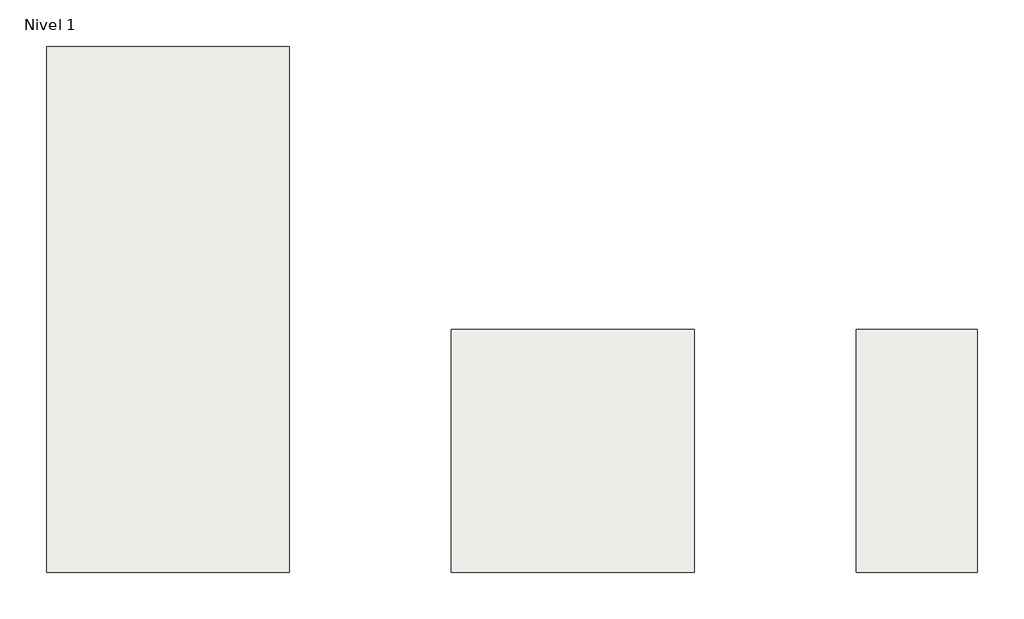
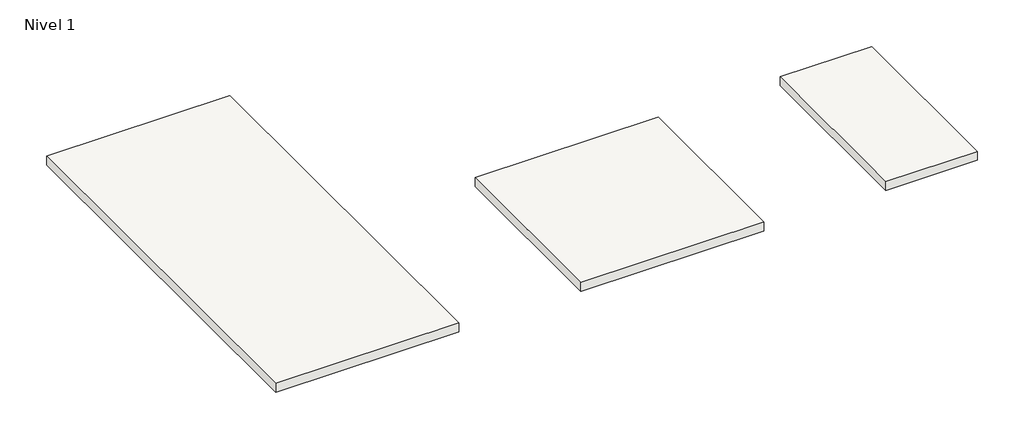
# One storey: 3 slabs.
"""IFC4 building model written with IfcOpenShell, lengths in millimetres."""

import ifcopenshell
import ifcopenshell.guid

model = None  # the IFC model being written
_history = None  # IfcOwnerHistory: only IFC2X3 demands one
_inside = {}  # id of a spatial element -> (the spatial element, [elements in it])
_under = {}  # id of a project, library or spatial element -> (it, [spatial elements below it])
_declared = {}  # id of a project -> (the project, [libraries it declares])
_typed = {}  # id of a type object -> (the type object, [elements of that type])
_made_of = {}  # id of a material, layer set ... -> (it, [elements and type objects made of it])


def new_model(schema):
    """Start an empty IFC model of exactly this schema.

    Asked for "IFC4X3", IfcOpenShell would pick the latest addendum, in which some entities
    have other attributes; the version numbers below select the first issue.
    IFC2X3 requires an IfcOwnerHistory on every rooted entity: one is made here for all.
    """
    global model, _history
    if schema == "IFC4X3":
        model = ifcopenshell.file(schema_version=(4, 3, 0, 0))
    else:
        model = ifcopenshell.file(schema=schema)
    _inside.clear()
    _under.clear()
    _declared.clear()
    _typed.clear()
    _made_of.clear()
    _history = None
    if model.schema == "IFC2X3":
        org = make("IfcOrganization", Name="unknown")
        user = make(
            "IfcPersonAndOrganization",
            ThePerson=make("IfcPerson", FamilyName="unknown"),
            TheOrganization=org,
        )
        app = make(
            "IfcApplication",
            ApplicationDeveloper=org,
            Version="unknown",
            ApplicationFullName="unknown",
            ApplicationIdentifier="unknown",
        )
        _history = make(
            "IfcOwnerHistory",
            OwningUser=user,
            OwningApplication=app,
            ChangeAction="ADDED",
            CreationDate=0,
        )
    return model


def make(cls, **values):
    """One entity of the class cls with the attributes given. An attribute that is None is left unset."""
    return model.create_entity(
        cls, **{name: value for name, value in values.items() if value is not None}
    )


def rooted(cls, **values):
    """An entity with a GlobalId (a new one), such as an element, a storey or a relation."""
    return make(cls, GlobalId=ifcopenshell.guid.new(), OwnerHistory=_history, **values)


def si_unit(unit_type, name, prefix=None):
    """IfcSIUnit, for example si_unit("LENGTHUNIT", "METRE", prefix="MILLI")."""
    return make("IfcSIUnit", UnitType=unit_type, Prefix=prefix, Name=name)


def assignment(units):
    """IfcUnitAssignment: the units of a project."""
    return None if units is None else make("IfcUnitAssignment", Units=units)


def point(xyz):
    """IfcCartesianPoint."""
    return None if xyz is None else make("IfcCartesianPoint", Coordinates=xyz)


def direction(xyz):
    """IfcDirection."""
    return None if xyz is None else make("IfcDirection", DirectionRatios=xyz)


def frame(location, z_axis=None, x_axis=None):
    """IfcAxis2Placement3D, a coordinate frame: its origin and axes. An axis left out is left unset."""
    return make(
        "IfcAxis2Placement3D",
        Location=point(location),
        Axis=direction(z_axis),
        RefDirection=direction(x_axis),
    )


def origin():
    """The frame at (0, 0, 0) with its axes left unset."""
    return frame((0.0, 0.0, 0.0))


def place(relative_to, where):
    """IfcLocalPlacement: puts the frame where relative to a parent placement (None: the world)."""
    return make(
        "IfcLocalPlacement", PlacementRelTo=relative_to, RelativePlacement=where
    )


def context(
    kind, dimensions, precision=None, world=None, true_north=None, identifier=None
):
    """IfcGeometricRepresentationContext, for example the 3D "Model" context."""
    return make(
        "IfcGeometricRepresentationContext",
        ContextIdentifier=identifier,
        ContextType=kind,
        CoordinateSpaceDimension=dimensions,
        Precision=precision,
        WorldCoordinateSystem=world,
        TrueNorth=true_north,
    )


def project(units=None, contexts=None):
    """IfcProject with its units and contexts."""
    return rooted(
        "IfcProject",
        Name="project",
        RepresentationContexts=contexts,
        UnitsInContext=assignment(units),
    )


def spatial(cls, under=None, at=None, **own):
    """A site, building, storey or space (cls), placed at a placement, below another one or the project."""
    s = rooted(cls, ObjectPlacement=at, **own)
    if under is not None:
        _under.setdefault(under.id(), (under, []))[1].append(s)
    return s


def polyline(points):
    """IfcPolyline through the points."""
    return make("IfcPolyline", Points=[point(p) for p in points])


def outline(outer, holes=None, kind="AREA"):
    """IfcArbitraryClosedProfileDef: a profile drawn as a closed curve; with holes, ...WithVoids."""
    if holes is None:
        return make("IfcArbitraryClosedProfileDef", ProfileType=kind, OuterCurve=outer)
    return make(
        "IfcArbitraryProfileDefWithVoids",
        ProfileType=kind,
        OuterCurve=outer,
        InnerCurves=holes,
    )


def extrude(swept, where, along, depth):
    """IfcExtrudedAreaSolid: the profile swept, set in the frame where, extruded along a direction by depth."""
    return make(
        "IfcExtrudedAreaSolid",
        SweptArea=swept,
        Position=where,
        ExtrudedDirection=direction(along),
        Depth=depth,
    )


def shape(context_of_items, identifier, shape_type, items):
    """IfcShapeRepresentation: the items that make up one representation, for example the "Body"."""
    return make(
        "IfcShapeRepresentation",
        ContextOfItems=context_of_items,
        RepresentationIdentifier=identifier,
        RepresentationType=shape_type,
        Items=items,
    )


def made_of(thing, what):
    """Note that an element or type object is made of a material, layer set ...; save() writes the relation."""
    if what is not None:
        _made_of.setdefault(what.id(), (what, []))[1].append(thing)
    return thing


def element(
    cls,
    number,
    at=None,
    inside=None,
    cuts=None,
    type_object=None,
    material=None,
    context=None,
    identifier="Body",
    shape_type=None,
    held_by="IfcProductDefinitionShape",
    body=None,
    shapes=None,
    **own,
):
    """One element of the class cls, such as IfcWall. Its Tag is "e" and its number.

    at: its placement. inside: the storey or other place that contains it. cuts: it is an
    opening in that element (IfcRelVoidsElement). A single representation is given by context,
    identifier, shape_type and body (its items); several are given by shapes. held_by: the class
    of the entity that holds the representations. save() writes the other relations.
    """
    e = rooted(cls, Tag="e%d" % number, ObjectPlacement=at, **own)
    if body is not None:
        shapes = [shape(context, identifier, shape_type, body)]
    if shapes is not None:
        e.Representation = make(held_by, Representations=shapes)
    if inside is not None:
        _inside.setdefault(inside.id(), (inside, []))[1].append(e)
    if cuts is not None:
        rooted(
            "IfcRelVoidsElement", RelatingBuildingElement=cuts, RelatedOpeningElement=e
        )
    if type_object is not None:
        _typed.setdefault(type_object.id(), (type_object, []))[1].append(e)
    return made_of(e, material)


def aggregate(whole, parts):
    """IfcRelAggregates: a whole, such as a stair, and the parts it consists of."""
    return rooted("IfcRelAggregates", RelatingObject=whole, RelatedObjects=parts)


def save(model, path):
    """Write the relations noted so far, then the file.

    IfcRelAggregates (storeys below a building ...), IfcRelContainedInSpatialStructure (elements
    in a storey), IfcRelDefinesByType, IfcRelAssociatesMaterial and IfcRelDeclares: one each for
    every whole, place, type object, material and project.
    """
    for whole, parts in _under.values():
        aggregate(whole, parts)
    for where, things in _inside.values():
        rooted(
            "IfcRelContainedInSpatialStructure",
            RelatedElements=things,
            RelatingStructure=where,
        )
    for kind, things in _typed.values():
        rooted("IfcRelDefinesByType", RelatedObjects=things, RelatingType=kind)
    for what, things in _made_of.values():
        rooted("IfcRelAssociatesMaterial", RelatedObjects=things, RelatingMaterial=what)
    for by, libraries in _declared.values():
        rooted("IfcRelDeclares", RelatingContext=by, RelatedDefinitions=libraries)
    model.write(path)


model = new_model("IFC4")

# Units and contexts
model_context = context("Model", 3, world=origin())
ifc_project = project(units=[si_unit("LENGTHUNIT", "METRE", prefix="MILLI")], contexts=[model_context])

# Site, building, storey
site = spatial("IfcSite", under=ifc_project)
building = spatial("IfcBuilding", under=site)
storey = spatial("IfcBuildingStorey", under=building, Name="Nivel 1", Elevation=0.0)

# Slabs
placement = place(None, origin())
element("IfcSlab", 1, ObjectType="Ankara Bronce 120X260 5,6", at=placement, inside=storey, context=model_context, shape_type="SweptSolid", body=[
    extrude(outline(polyline([(0.0, 2600.0), (1200.0, 2600.0), (1200.0, 0.0), (0.0, 0.0), (0.0, 2600.0)])), frame((0.0, 0.0, -60.6), z_axis=(0.0, 0.0, 1.0), x_axis=(1.0, 0.0, 0.0)), (0.0, 0.0, 1.0), 60.6),
])
element("IfcSlab", 2, ObjectType="Ankara Bronce 120X120 5,6", at=placement, inside=storey, context=model_context, shape_type="SweptSolid", body=[
    extrude(outline(polyline([(2000.0, 1200.0), (3200.0, 1200.0), (3200.0, 0.0), (2000.0, 0.0), (2000.0, 1200.0)])), frame((0.0, 0.0, -60.6), z_axis=(0.0, 0.0, 1.0), x_axis=(1.0, 0.0, 0.0)), (0.0, 0.0, 1.0), 60.6),
])
element("IfcSlab", 3, ObjectType="Ankara Bronce 60X120 5,6", at=placement, inside=storey, context=model_context, shape_type="SweptSolid", body=[
    extrude(outline(polyline([(4000.0, 1200.0), (4600.0, 1200.0), (4600.0, 0.0), (4000.0, 0.0), (4000.0, 1200.0)])), frame((0.0, 0.0, -60.6), z_axis=(0.0, 0.0, 1.0), x_axis=(1.0, 0.0, 0.0)), (0.0, 0.0, 1.0), 60.6),
])

save(model, "model.ifc")
